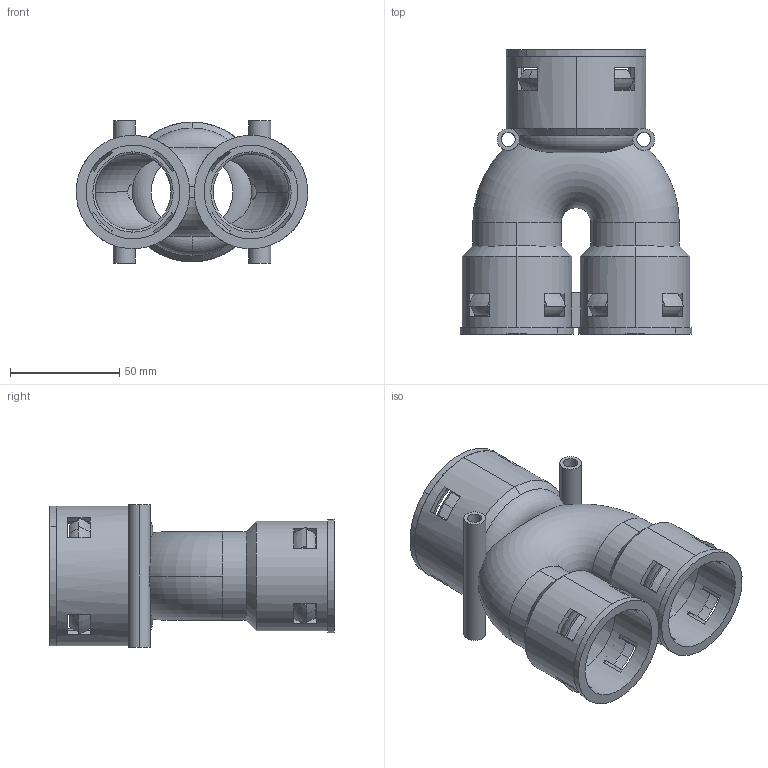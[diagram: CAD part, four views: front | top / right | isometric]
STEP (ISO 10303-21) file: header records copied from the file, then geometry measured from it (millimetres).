
FILE_DESCRIPTION (( 'STEP AP203' ), '1' );
FILE_NAME ('WQY-PA-AD54.5-2X42.5.STEP', '2012-06-07T06:03:30', ( '迾輿躂瑞' ), ( 'WwW.YlmF.CoM' ), 'SwSTEP 2.0', 'SolidWorks 2010', '' );
FILE_SCHEMA (( 'CONFIG_CONTROL_DESIGN' ));
Length unit declared in the file: millimetre
Products named in the file (4): WQY-PA-AD54.5-2X42.5; NSK-AD54.5; NSK-AD42.5
Assembly tree (4 placements, depth 2):
  WQY-PA-AD54.5-2X42.5
    WQY-PA-AD54.5-2X42.5
    NSK-AD54.5
    NSK-AD42.5  x2
Bounding box: 105.82 x 130 x 65 mm (x, y, z)
Volume: 111760 mm3; surface area: 95594 mm2
Topology: 4 solids, 4 shells, 344 faces, 977 edges, 633 vertices
Faces by surface type: plane 190, cylinder 66, cone 39, bspline 30, torus 19
Entity records: 10778 total; most frequent: CARTESIAN_POINT 3148, ORIENTED_EDGE 1548, DIRECTION 1512, EDGE_CURVE 774, AXIS2_PLACEMENT_3D 599, VERTEX_POINT 501, CIRCLE 338, EDGE_LOOP 323
